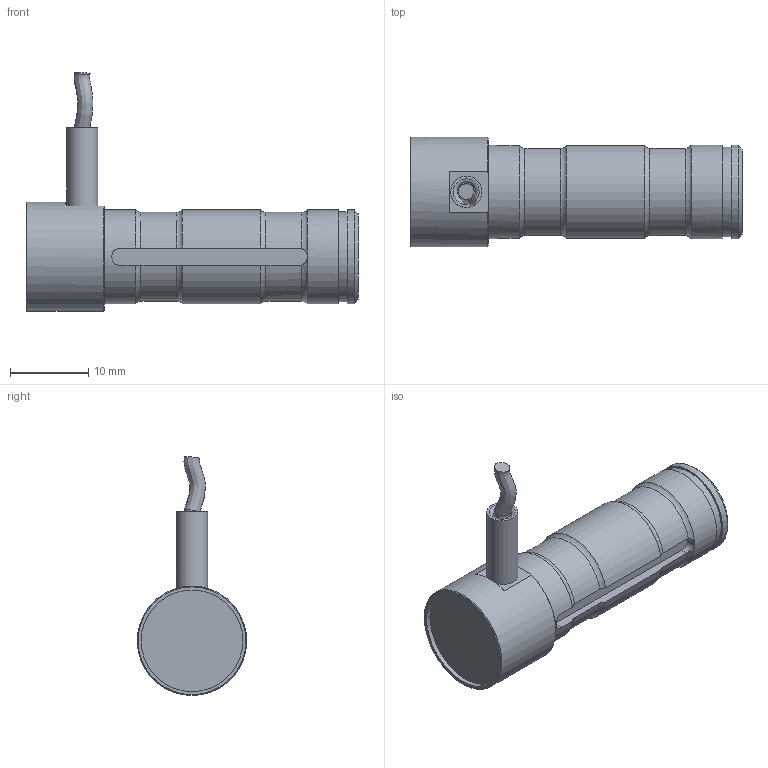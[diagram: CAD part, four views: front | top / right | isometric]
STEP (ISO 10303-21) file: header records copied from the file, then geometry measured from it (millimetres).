
FILE_DESCRIPTION(/* description */ ('Alibre Inc.'),/* implementation_level */ '2;1');
FILE_NAME(/* name */ 'export0',/* time_stamp */ '2017-08-05T21:57:22+02:00',/* author */ (''),/* organization */ (''),/* preprocessor_version */ 'ST-DEVELOPER v14',/* originating_system */ 'Alibre',/* authorisation */ '');
FILE_SCHEMA (('CONFIG_CONTROL_DESIGN'));
Length unit declared in the file: centimetre
Products named in the file (5): ID_1; ID_2; ID_3
Bounding box: 42.5 x 14 x 30.59 mm (x, y, z)
Volume: 4947.8 mm3; surface area: 2489.9 mm2
Topology: 3 solids, 3 shells, 62 faces, 144 edges, 94 vertices
Faces by surface type: cylinder 25, plane 24, torus 9, cone 3, bspline 1
Full cylindrical faces by diameter (mm): 2 x1, 2.3 x1, 3.5 x1, 3.6 x1, 4 x1, 11.5 x1, 12 x3, 13 x1, 14 x1
Entity records: 3049 total; most frequent: CARTESIAN_POINT 1314, ORIENTED_EDGE 252, DIRECTION 225, EDGE_CURVE 126, AXIS2_PLACEMENT_3D 105, VERTEX_POINT 90, EDGE_LOOP 84, FACE_BOUND 84
